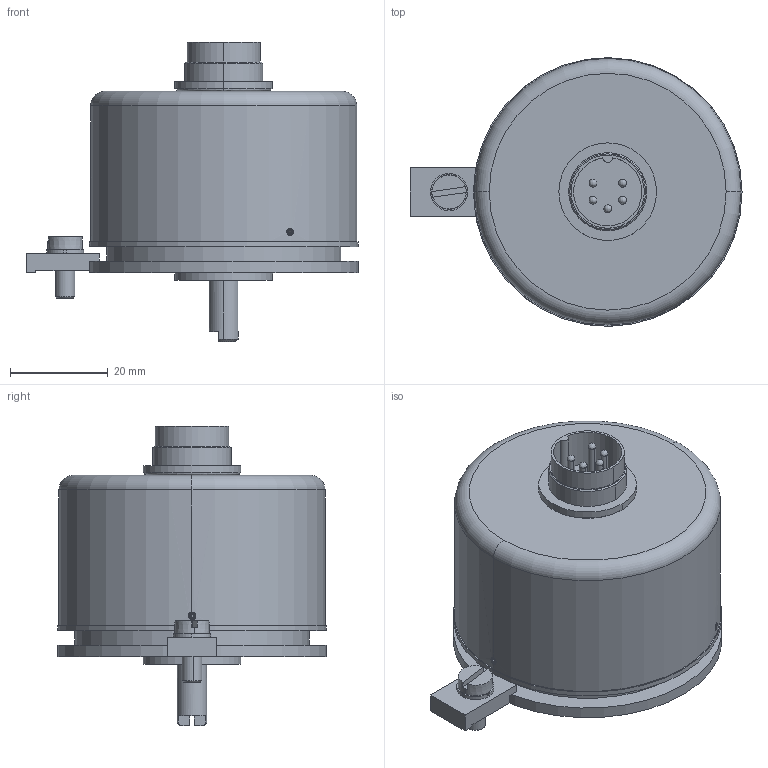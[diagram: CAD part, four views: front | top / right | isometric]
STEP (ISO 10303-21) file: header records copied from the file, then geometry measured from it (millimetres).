
FILE_DESCRIPTION (( 'STEP AP214' ), '1' );
FILE_NAME ('IPE-6501-S0055.STEP', '2012-08-14T11:17:27', ( 'dummy' ), ( '' ), 'SwSTEP 2.0', 'SolidWorks 2011', '' );
FILE_SCHEMA (( 'AUTOMOTIVE_DESIGN' ));
Length unit declared in the file: millimetre
Products named in the file (1): IPE-6501-S0055
Bounding box: 67.99 x 55 x 61.24 mm (x, y, z)
Surface area: 15083.8 mm2 (no closed solid volume)
Topology: 0 solids, 14 shells, 136 faces, 337 edges, 212 vertices
Faces by surface type: cylinder 59, plane 41, torus 16, cone 13, bspline 7
Entity records: 5708 total; most frequent: CARTESIAN_POINT 971, DIRECTION 735, ORIENTED_EDGE 592, EDGE_CURVE 323, AXIS2_PLACEMENT_3D 304, VERTEX_POINT 212, CIRCLE 174, EDGE_LOOP 160
